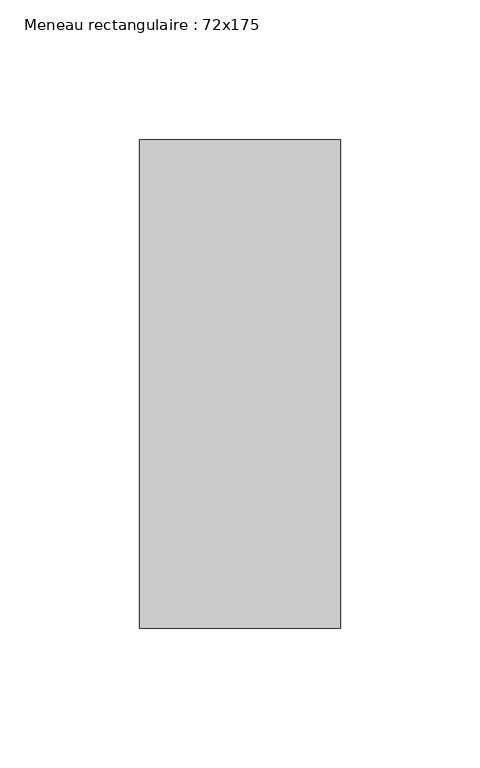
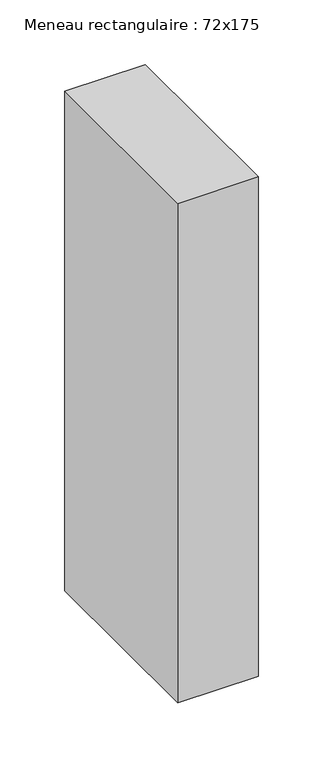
"""IFC4 building model written with IfcOpenShell, lengths in millimetres: member geometry, Meneau rectangulaire : 72x175."""

from ifc_helpers import new_model, si_unit, frame, origin, place, context, project, spatial, polyline, outline, extrude, source, transform, mapped, element, save


def meneau_rectangulaire_72x175_c2fa4eca(model_context):
    return source(origin(), model_context, "Body", "SweptSolid", [
        extrude(outline(polyline([(0.0, 87.5), (0.0, -87.5), (-72.0, -87.5), (-72.0, 87.5), (0.0, 87.5)])), frame((0.0, 0.0, -472.361482), z_axis=(0.0, 0.0, 1.0), x_axis=(1.0, 0.0, 0.0)), (0.0, 0.0, 1.0), 472.361482),
    ])


if __name__ == "__main__":
    model = new_model("IFC4")
    model_context = context("Model", 3, world=origin())
    ifc_project = project(units=[si_unit("LENGTHUNIT", "METRE", prefix="MILLI")], contexts=[model_context])
    site = spatial("IfcSite", under=ifc_project)
    building = spatial("IfcBuilding", under=site)
    placement = place(None, origin())
    meneau_rectangulaire_72x175_shape = meneau_rectangulaire_72x175_c2fa4eca(model_context)
    element("IfcMember", 1, ObjectType="Meneau rectangulaire : 72x175", at=placement, inside=building, context=model_context, shape_type="MappedRepresentation", body=[
        mapped(meneau_rectangulaire_72x175_shape, transform((0.0, 0.0, 0.0), x_axis=(1.0, 0.0, 0.0), y_axis=(0.0, 1.0, 0.0), z_axis=(0.0, 0.0, 1.0))),
    ])
    save(model, "model.ifc")
